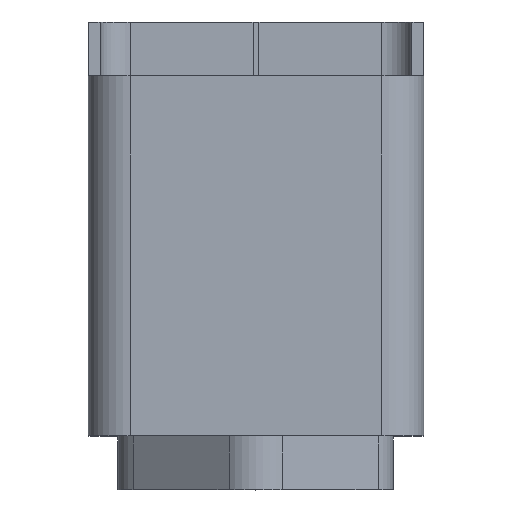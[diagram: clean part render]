
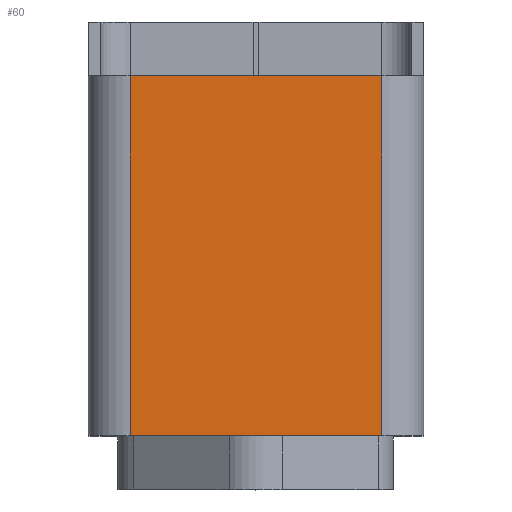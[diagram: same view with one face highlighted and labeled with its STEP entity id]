
A CAD part, top view. The second image highlights one B-rep face of the part: STEP entity #60.
In plain terms, the highlighted planar face has unit normal (0, 0, 1).
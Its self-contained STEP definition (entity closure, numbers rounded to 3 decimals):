
#60=ADVANCED_FACE('',(#185),#1915,.T.);
#185=FACE_OUTER_BOUND('',#310,.T.);
#310=EDGE_LOOP('',(#441,#442,#443,#444));
#441=ORIENTED_EDGE('',*,*,#1023,.F.);
#442=ORIENTED_EDGE('',*,*,#1024,.F.);
#443=ORIENTED_EDGE('',*,*,#1020,.F.);
#444=ORIENTED_EDGE('',*,*,#1022,.F.);
#1020=EDGE_CURVE('',#1687,#1688,#1482,.T.);
#1022=EDGE_CURVE('',#1689,#1687,#1483,.T.);
#1023=EDGE_CURVE('',#1690,#1689,#1484,.T.);
#1024=EDGE_CURVE('',#1688,#1690,#1485,.T.);
#1482=B_SPLINE_CURVE_WITH_KNOTS('',1,(#2912,#2913),.UNSPECIFIED.,.F.,.F.,
(2,2),(0.,600.),.UNSPECIFIED.);
#1483=B_SPLINE_CURVE_WITH_KNOTS('',1,(#2917,#2918),.UNSPECIFIED.,.F.,.F.,
(2,2),(-420.,0.),.UNSPECIFIED.);
#1484=B_SPLINE_CURVE_WITH_KNOTS('',1,(#2919,#2920),.UNSPECIFIED.,.F.,.F.,
(2,2),(-600.,0.),.UNSPECIFIED.);
#1485=B_SPLINE_CURVE_WITH_KNOTS('',1,(#2921,#2922),.UNSPECIFIED.,.F.,.F.,
(2,2),(-420.,0.),.UNSPECIFIED.);
#1687=VERTEX_POINT('',#2881);
#1688=VERTEX_POINT('',#2882);
#1689=VERTEX_POINT('',#2883);
#1690=VERTEX_POINT('',#2884);
#1915=PLANE('',#2340);
#2340=AXIS2_PLACEMENT_3D('',#2865,#2555,$);
#2555=DIRECTION('',(0.,0.,1.));
#2865=CARTESIAN_POINT('',(252.,-61.62,305.065));
#2881=CARTESIAN_POINT('',(-210.,-1.62,305.065));
#2882=CARTESIAN_POINT('',(-210.,598.38,305.065));
#2883=CARTESIAN_POINT('',(210.,-1.62,305.065));
#2884=CARTESIAN_POINT('',(210.,598.38,305.065));
#2912=CARTESIAN_POINT('',(-210.,-1.62,305.065));
#2913=CARTESIAN_POINT('',(-210.,598.38,305.065));
#2917=CARTESIAN_POINT('',(210.,-1.62,305.065));
#2918=CARTESIAN_POINT('',(-210.,-1.62,305.065));
#2919=CARTESIAN_POINT('',(210.,598.38,305.065));
#2920=CARTESIAN_POINT('',(210.,-1.62,305.065));
#2921=CARTESIAN_POINT('',(-210.,598.38,305.065));
#2922=CARTESIAN_POINT('',(210.,598.38,305.065));
